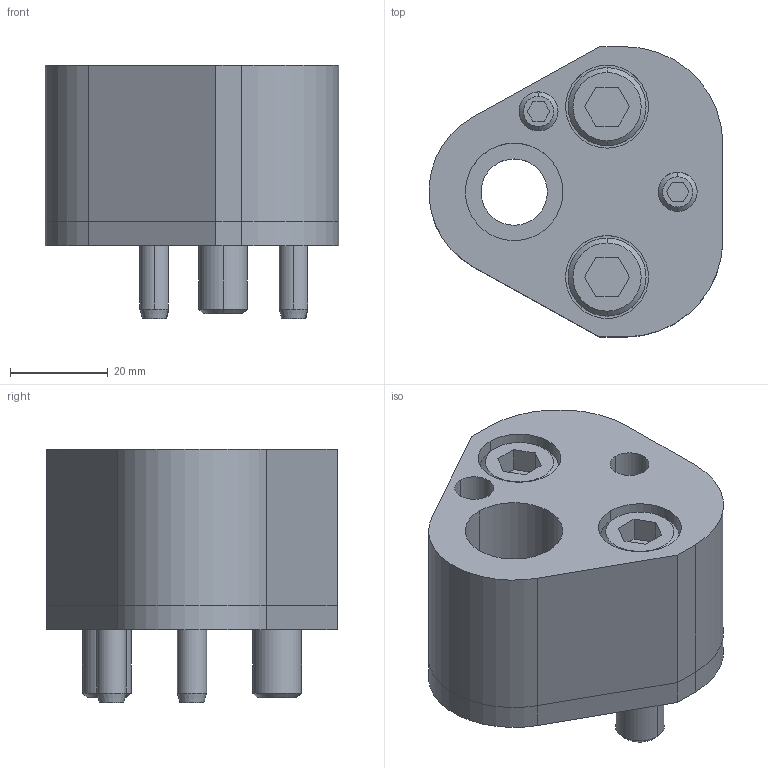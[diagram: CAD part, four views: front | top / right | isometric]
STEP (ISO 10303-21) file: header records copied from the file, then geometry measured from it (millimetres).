
FILE_DESCRIPTION(/* description */ (''),/* implementation_level */ '2;1');
FILE_NAME(/* name */ '3d_crn-ad20_03618_r00.stp',/* time_stamp */ '2011-01-10T14:16:24+09:00',/* author */ ('MISUMI'),/* organization */ (''),/* preprocessor_version */ 'ST-DEVELOPER v11',/* originating_system */ 'UGS - NX 5.0',/* authorisation */ '');
FILE_SCHEMA (('CONFIG_CONTROL_DESIGN'));
Length unit declared in the file: millimetre
Products named in the file (1): 3d_crn-ad20_03618_r00
Bounding box: 60.24 x 59.5 x 52 mm (x, y, z)
Volume: 87178.5 mm3; surface area: 29305.4 mm2
Topology: 8 solids, 8 shells, 155 faces, 348 edges, 224 vertices
Faces by surface type: plane 67, cylinder 62, cone 26
Entity records: 4494 total; most frequent: DIRECTION 804, CARTESIAN_POINT 782, ORIENTED_EDGE 696, EDGE_CURVE 348, AXIS2_PLACEMENT_3D 306, VERTEX_POINT 224, LINE 192, VECTOR 192
